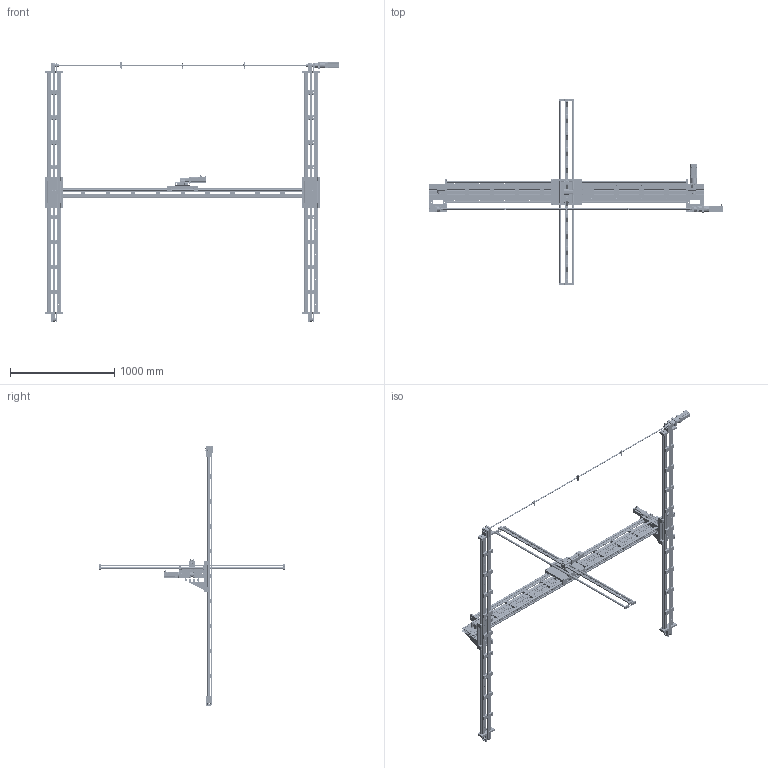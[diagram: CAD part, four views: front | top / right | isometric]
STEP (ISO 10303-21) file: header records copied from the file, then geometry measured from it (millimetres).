
FILE_DESCRIPTION(/* description */ ('Raumportal / Room Gantry'),/* implementation_level */ '2;1');
FILE_NAME(/* name */ 'I:\Gleitlager\Konstruktion\Kundenteile\Drylin\1111112 (igus GmbH Köln)\1111112-210625\1111112-210625-1.stp',/* time_stamp */ '2021-09-09T16:35:10+02:00',/* author */ ('jkarp'),/* organization */ (''),/* preprocessor_version */ 'ST-DEVELOPER v18.1',/* originating_system */ 'Autodesk Inventor 2020',/* authorisation */ '');
FILE_SCHEMA (('AUTOMOTIVE_DESIGN { 1 0 10303 214 3 1 1 }'));
Products named in the file (101): DLE-RG-001068; DLE-RG-001068-Y; ZT-20200; ZTY-20200-001; ZW-20200-300-WJ200UMA; ZWY-20200-001-300; NOR-10590; ZR-20120-001-ES-5028; WS-20-2340-C5=C6=90; ZSY-20200-001; MK-0517; AK-S-RG-001068-XY; MSX-I40x160L-2644; NOR-10518; NOR-10657; NOR-105105; ETY-S-1111112-210625-A; NOR-20626; NOR-10595; ETY-MSX-A-ISB-00001; DLE-RG-001068-Z; GSX-12-001-1774; LW-S-3390000-210305-Z; GWY-12-002; GWY-12-003; NOR-20984; NOR-20525; GTY-S-3390000-210305-D; GTY-S-3390000-210305-E; RW360CM-01-20 ; NOR-10537; GTY-S-3390000-210305-F; NOR-10514; MH-05; GSZ-12-001-38; GSZ-12-001; GSZ-12-001_1; AWMR-12-1782; LT-S-3390000-210305-Z; GTY-S-3390000-210305-C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
Assembly tree (412 placements, depth 5):
  DLE-RG-001068
    DLE-RG-001068-Y
      ZT-20200  x2
        ZTY-20200-001
        NOR-10525
        MH-06
        ZTY-20120-002
        NOR-20950
        ZTY-20120-016
        NOR-20516
        NOR-10518_1
      ZW-20200-300-WJ200UMA
        ZWY-20200-001-300
        ZWY-20120-002  x2
        ZWY-20120-003
        GFM-0607-06
        WJ200UMA-01-20-AL  x4
          WMA-01-20-AL
          WRZ-012001
          J200UMA-01-20-K
        NOR-10601  x6
        NOR-10602  x4
        NOR-10590
      ZR-20120-001-ES-5028
      WS-20-2340-C5=C6=90  x2
      ZSY-20200-001  x9
      NOR-10639  x18
      MK-0517
        COU-AR-K-140-140-42-40-B-AAAA
        GEA-60-5-60-ST-080
          E-GEA-60-10-60-ST
          ZTY-1040109
          NOR-11003_1  x4
          NOR-10552  x4
        MF-20120-GEAR60-S
          ZTY-20120-018
          ZTY-20120-006
          NOR-10607  x4
          NOR-10610  x8
        MOT-AN-S-060-035-060-M-C-AAAC
          1_1
          2_1
    AK-S-RG-001068-XY
      MSX-I40x160L-2644
      NOR-20626  x26
      NOR-10518  x18
      NOR-105105  x8
      NOR-10657  x8
      NOR-10595  x8
      ETY-S-1111112-210625-A  x2
      ETY-MSX-A-ISB-00001  x4
    DLE-RG-001068-Z
      LT-S-3390000-210305-Z  x2
        GTY-S-3390000-210305-C
        NOR-10412
      GSX-12-001-1774
      AWMR-12-1782  x2
      LW-S-3390000-210305-Z
        GWY-12-002
        GWY-12-003
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Bounding box: 2825.2 x 1782 x 2503 mm (x, y, z)
Volume: 27584077.9 mm3; surface area: 10739812.6 mm2
Topology: 546 solids, 554 shells, 23329 faces, 63754 edges, 42367 vertices
Faces by surface type: plane 13087, cylinder 6341, cone 1666, torus 1198, bspline 867, sphere 170
Full cylindrical faces by diameter (mm): 0.2 x3, 1.5 x226, 2 x31, 2.013 x4, 2.459 x28, 2.5 x40, 2.8 x18, 3 x16, 3.242 x26, 3.4 x4, 4 x28, 4.134 x91, 4.2 x8, 4.3 x12, 4.5 x10, 4.917 x80, 5 x67, 5.5 x47, 6 x121, 6.6 x2, 6.647 x144, 6.8 x4, 7 x71, 8 x174, 8.05 x3, 8.2 x30, 8.3 x24, 8.376 x12, 8.5 x35, 8.6 x114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
Entity records: 158729 total; most frequent: CARTESIAN_POINT 35297, DIRECTION 25590, ORIENTED_EDGE 24262, EDGE_CURVE 12139, AXIS2_PLACEMENT_3D 9637, VERTEX_POINT 8087, LINE 6316, VECTOR 6316
